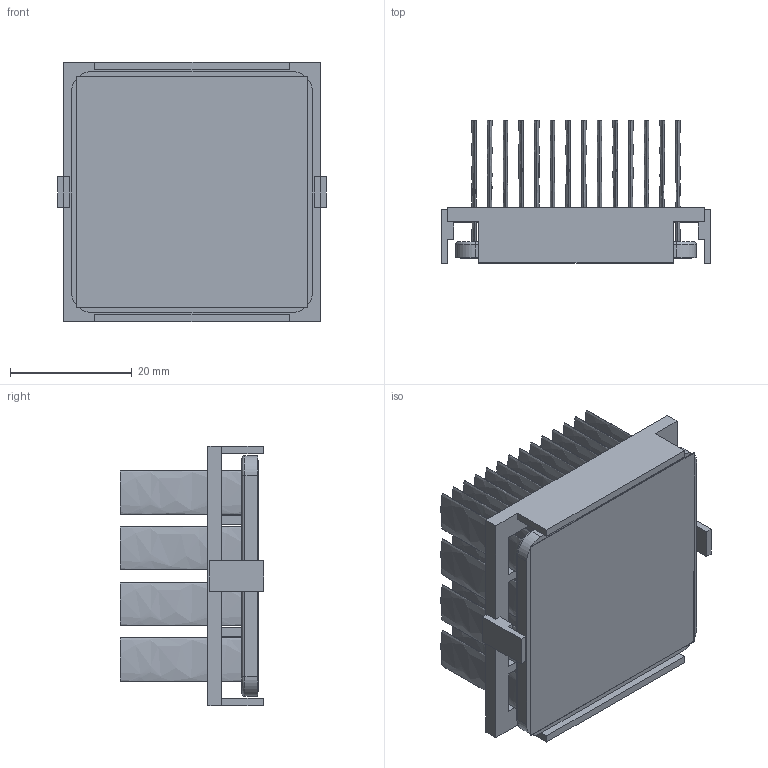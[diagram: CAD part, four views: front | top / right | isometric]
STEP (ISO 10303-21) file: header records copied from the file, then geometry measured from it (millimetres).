
FILE_DESCRIPTION (( 'STEP AP214' ), '1' );
FILE_NAME ('INM40001-23W-2.6O.STEP', '2023-02-21T17:42:15', ( '' ), ( '' ), 'SwSTEP 2.0', 'SolidWorks 2020', '' );
FILE_SCHEMA (( 'AUTOMOTIVE_DESIGN' ));
Length unit declared in the file: inch
Products named in the file (1): INM40001-23W-2.6O
Bounding box: 44.2 x 23.6 x 42.7 mm (x, y, z)
Volume: 11394 mm3; surface area: 26029.9 mm2
Topology: 3 solids, 3 shells, 250 faces, 556 edges, 368 vertices
Faces by surface type: plane 126, bspline 112, cylinder 8, torus 4
Entity records: 10428 total; most frequent: CARTESIAN_POINT 2631, ORIENTED_EDGE 1112, DIRECTION 630, EDGE_CURVE 556, VERTEX_POINT 368, VECTOR 312, LINE 312, EDGE_LOOP 308
